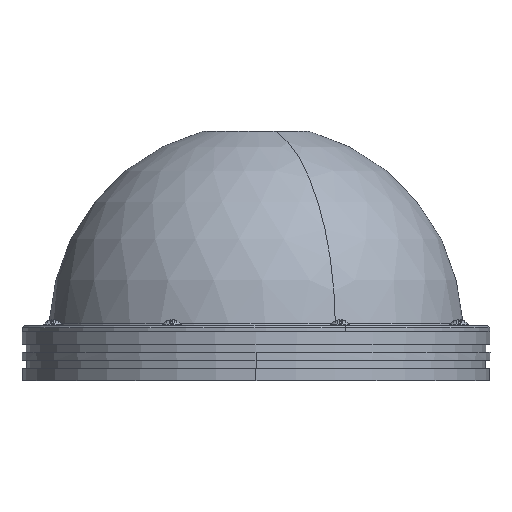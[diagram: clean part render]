
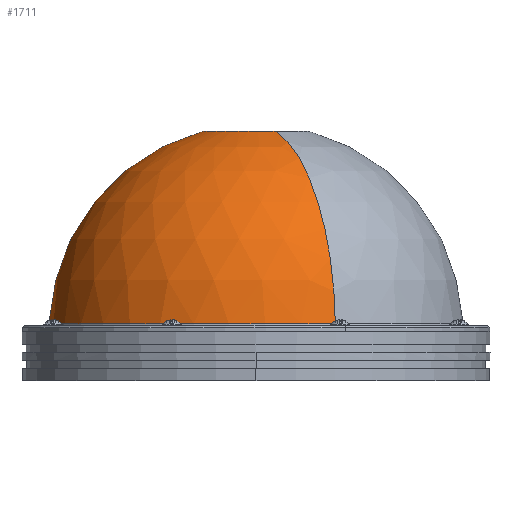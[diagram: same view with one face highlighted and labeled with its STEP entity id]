
A CAD part, left-side view. The second image highlights one B-rep face of the part: STEP entity #1711.
In plain terms, the highlighted spherical face has radius 51 mm.
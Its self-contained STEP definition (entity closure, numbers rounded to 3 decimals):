
#1711=ADVANCED_FACE('',(#3404),#3405,.T.);
#3404=FACE_OUTER_BOUND('',#5302,.T.);
#3405=SPHERICAL_SURFACE('',#5303,51.0);
#5302=EDGE_LOOP('',(#10032,#10033,#10034,#10035));
#5303=AXIS2_PLACEMENT_3D('',#10036,#10037,#10038);
#10032=ORIENTED_EDGE('',*,*,#12574,.F.);
#10033=ORIENTED_EDGE('',*,*,#12561,.F.);
#10034=ORIENTED_EDGE('',*,*,#12575,.F.);
#10035=ORIENTED_EDGE('',*,*,#12576,.T.);
#10036=CARTESIAN_POINT('',(0.,0.,0.));
#10037=DIRECTION('',(0.,0.,1.0));
#10038=DIRECTION('',(1.0,0.,0.));
#12561=EDGE_CURVE('',#15663,#15657,#15665,.T.);
#12574=EDGE_CURVE('',#15657,#15685,#15686,.T.);
#12575=EDGE_CURVE('',#15687,#15663,#15688,.T.);
#12576=EDGE_CURVE('',#15687,#15685,#15689,.T.);
#15657=VERTEX_POINT('',#21986);
#15663=VERTEX_POINT('',#21993);
#15665=CIRCLE('',#21996,12.984);
#15685=VERTEX_POINT('',#22018);
#15686=CIRCLE('',#22019,51.0);
#15687=VERTEX_POINT('',#22020);
#15688=CIRCLE('',#22021,51.0);
#15689=CIRCLE('',#22022,50.962);
#21986=CARTESIAN_POINT('',(-12.984,0.,49.319));
#21993=CARTESIAN_POINT('',(12.984,0.0,49.319));
#21996=AXIS2_PLACEMENT_3D('',#24171,#24172,#24173);
#22018=CARTESIAN_POINT('',(-50.962,0.,1.981));
#22019=AXIS2_PLACEMENT_3D('',#24197,#24198,#24199);
#22020=CARTESIAN_POINT('',(50.962,0.0,1.981));
#22021=AXIS2_PLACEMENT_3D('',#24200,#24201,#24202);
#22022=AXIS2_PLACEMENT_3D('',#24203,#24204,#24205);
#24171=CARTESIAN_POINT('',(0.,0.,49.319));
#24172=DIRECTION('',(0.,0.,1.0));
#24173=DIRECTION('',(1.0,0.,0.));
#24197=CARTESIAN_POINT('',(0.,0.,0.));
#24198=DIRECTION('',(0.,-1.0,0.));
#24199=DIRECTION('',(0.0,0.,1.0));
#24200=CARTESIAN_POINT('',(0.,0.0,0.));
#24201=DIRECTION('',(0.0,-1.0,0.0));
#24202=DIRECTION('',(0.999,0.0,0.039));
#24203=CARTESIAN_POINT('',(0.0,0.,1.981));
#24204=DIRECTION('',(0.0,0.0,1.0));
#24205=DIRECTION('',(1.0,0.,0.0));
